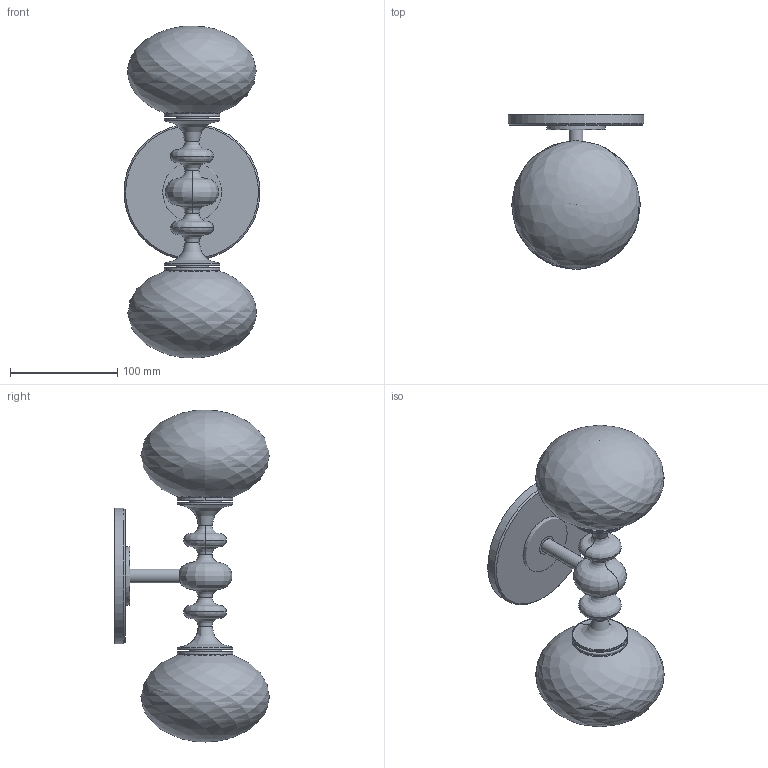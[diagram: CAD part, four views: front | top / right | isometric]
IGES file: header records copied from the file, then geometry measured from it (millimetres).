
Global section: file name: /Users/danielszollosi/Documents/SkLO/Sklo.com/3D models/WEB 3D Models/SkLO_AvroKO_PerlaSconce_Profile1_3D_LT626.igs; native system: Rhinoceros ( Dec  3 2024 ); preprocessor: Trout Lake IGES 012 Dec  3 2024; date: 250804.115251; units: millimetre
Bounding box: 126.98 x 144.55 x 310.01 mm (x, y, z)
Surface area: 240604.8 mm2 (no closed solid volume)
Topology: 0 solids, 0 shells, 197 faces, 1895 edges, 1714 vertices
Faces by surface type: bspline 197
